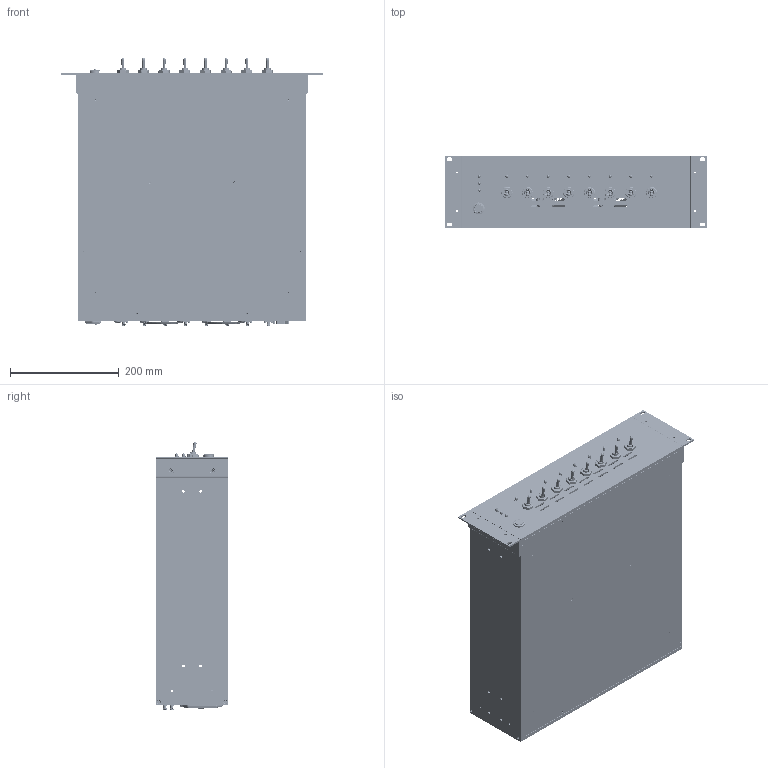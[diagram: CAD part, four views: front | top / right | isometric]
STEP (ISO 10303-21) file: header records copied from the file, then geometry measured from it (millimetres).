
FILE_DESCRIPTION (( 'STEP AP214' ), '1' );
FILE_NAME ('PA-50-DC6G-SFF-X8.STEP', '2026-04-21T13:36:59', ( '' ), ( '' ), 'SwSTEP 2.0', 'SolidWorks 2025', '' );
FILE_SCHEMA (( 'AUTOMOTIVE_DESIGN' ));
Length unit declared in the file: millimetre
Products named in the file (1): PA-50-DC6G-SFF-X8
Bounding box: 482.61 x 132.6 x 494.39 mm (x, y, z)
Volume: 2127430.3 mm3; surface area: 2054920.1 mm2
Topology: 414 solids, 440 shells, 17024 faces, 43421 edges, 27923 vertices
Faces by surface type: plane 7248, cylinder 4862, bspline 1547, cone 1459, torus 1209, sphere 699
Full cylindrical faces by diameter (mm): 0.914 x16, 1.7 x16, 2 x16, 2.184 x144, 2.438 x10, 2.5 x16, 2.845 x44, 3 x16, 3.048 x2, 3.251 x2, 3.264 x28, 3.429 x4, 3.505 x8, 3.556 x32, 3.81 x16, 3.988 x12, 4 x16, 4.039 x8, 4.293 x8, 4.3 x8, 4.5 x19, 4.572 x16, 4.775 x12, 4.826 x4, 5 x4, 5.283 x80, 5.4 x8, 5.429 x16, 6.045 x8, 6.35 x24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
Entity records: 802831 total; most frequent: CARTESIAN_POINT 300360, ORIENTED_EDGE 82702, DIRECTION 77069, EDGE_CURVE 41351, AXIS2_PLACEMENT_3D 28583, VERTEX_POINT 27309, EDGE_LOOP 20178, LINE 19903
